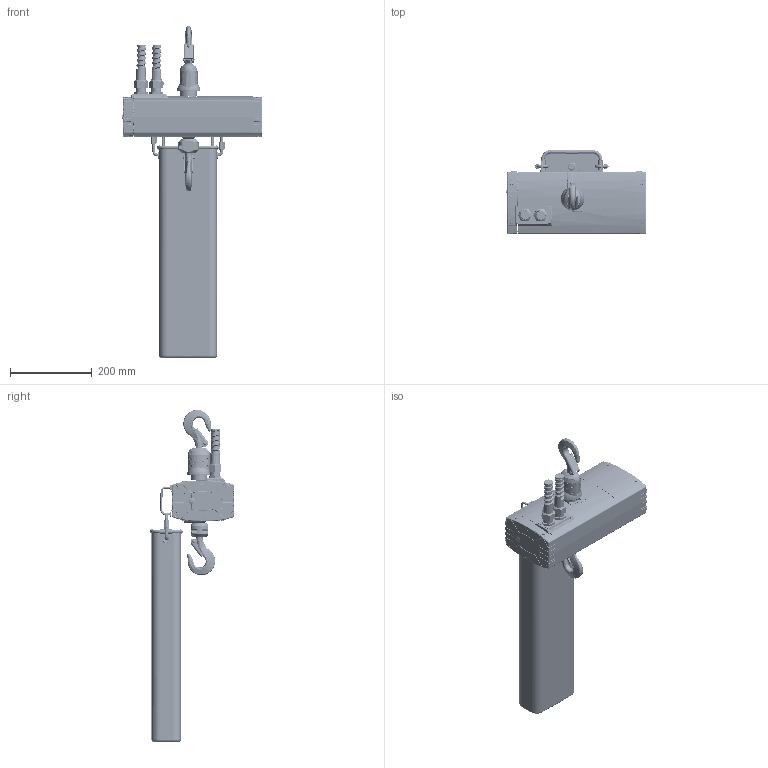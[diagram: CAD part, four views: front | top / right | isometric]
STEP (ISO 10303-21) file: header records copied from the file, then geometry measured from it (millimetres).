
FILE_DESCRIPTION(/* description */ (''),/* implementation_level */ '2;1');
FILE_NAME(/* name */ 'try.stp',/* time_stamp */ '2015-10-06T16:11:15+03:00',/* author */ (''),/* organization */ (''),/* preprocessor_version */ 'ST-DEVELOPER v15',/* originating_system */ 'SIEMENS PLM Software NX 8.5',/* authorisation */ '');
FILE_SCHEMA (('AUTOMOTIVE_DESIGN { 1 0 10303 214 3 1 1 1 }'));
Length unit declared in the file: millimetre
Products named in the file (1): kris12CCDB3Csrlo
Bounding box: 344.81 x 206.94 x 812.81 mm (x, y, z)
Volume: 2084381 mm3; surface area: 1046016.1 mm2
Topology: 12 solids, 21 shells, 5745 faces, 13774 edges, 8003 vertices
Faces by surface type: bspline 1650, cylinder 1613, plane 1301, torus 539, cone 336, sphere 270, extrusion 32, revolution 4
Full cylindrical faces by diameter (mm): 1.2 x2, 1.6 x1, 3 x2, 3.5 x16, 4 x6, 4.5 x2, 4.826 x8, 6 x4, 7 x4, 7.2 x10, 8 x8, 8.2 x1, 8.5 x4, 9 x5, 12 x2, 12.5 x1, 13 x1, 17.58 x2, 21 x1, 25 x2, 26 x4, 28 x1, 40 x1, 89.848 x1, 90 x1
Entity records: 274544 total; most frequent: CARTESIAN_POINT 153613, ORIENTED_EDGE 26190, DIRECTION 23986, EDGE_CURVE 13095, AXIS2_PLACEMENT_3D 9914, VERTEX_POINT 7815, EDGE_LOOP 6251, ADVANCED_FACE 5735
